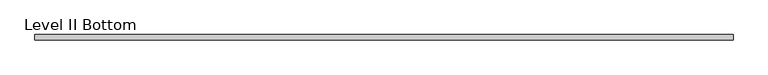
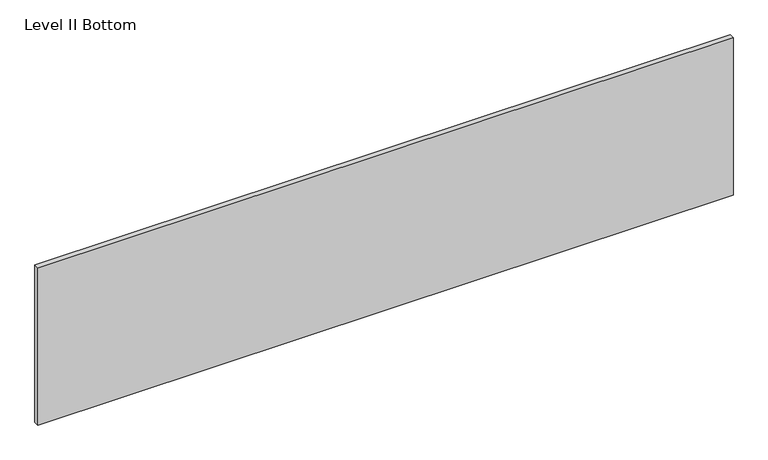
"""IFC4 building model written with IfcOpenShell, lengths in millimetres: proxy geometry, Panel-Fascia-Teknion-Altos-Landscape : Level II Bottom."""

import ifcopenshell
import ifcopenshell.guid

model = None  # the IFC model being written
_history = None  # IfcOwnerHistory: only IFC2X3 demands one
_inside = {}  # id of a spatial element -> (the spatial element, [elements in it])
_under = {}  # id of a project, library or spatial element -> (it, [spatial elements below it])
_declared = {}  # id of a project -> (the project, [libraries it declares])
_typed = {}  # id of a type object -> (the type object, [elements of that type])
_made_of = {}  # id of a material, layer set ... -> (it, [elements and type objects made of it])


def new_model(schema):
    """Start an empty IFC model of exactly this schema.

    Asked for "IFC4X3", IfcOpenShell would pick the latest addendum, in which some entities
    have other attributes; the version numbers below select the first issue.
    IFC2X3 requires an IfcOwnerHistory on every rooted entity: one is made here for all.
    """
    global model, _history
    if schema == "IFC4X3":
        model = ifcopenshell.file(schema_version=(4, 3, 0, 0))
    else:
        model = ifcopenshell.file(schema=schema)
    _inside.clear()
    _under.clear()
    _declared.clear()
    _typed.clear()
    _made_of.clear()
    _history = None
    if model.schema == "IFC2X3":
        org = make("IfcOrganization", Name="unknown")
        user = make(
            "IfcPersonAndOrganization",
            ThePerson=make("IfcPerson", FamilyName="unknown"),
            TheOrganization=org,
        )
        app = make(
            "IfcApplication",
            ApplicationDeveloper=org,
            Version="unknown",
            ApplicationFullName="unknown",
            ApplicationIdentifier="unknown",
        )
        _history = make(
            "IfcOwnerHistory",
            OwningUser=user,
            OwningApplication=app,
            ChangeAction="ADDED",
            CreationDate=0,
        )
    return model


def make(cls, **values):
    """One entity of the class cls with the attributes given. An attribute that is None is left unset."""
    return model.create_entity(
        cls, **{name: value for name, value in values.items() if value is not None}
    )


def rooted(cls, **values):
    """An entity with a GlobalId (a new one), such as an element, a storey or a relation."""
    return make(cls, GlobalId=ifcopenshell.guid.new(), OwnerHistory=_history, **values)


def si_unit(unit_type, name, prefix=None):
    """IfcSIUnit, for example si_unit("LENGTHUNIT", "METRE", prefix="MILLI")."""
    return make("IfcSIUnit", UnitType=unit_type, Prefix=prefix, Name=name)


def assignment(units):
    """IfcUnitAssignment: the units of a project."""
    return None if units is None else make("IfcUnitAssignment", Units=units)


def point(xyz):
    """IfcCartesianPoint."""
    return None if xyz is None else make("IfcCartesianPoint", Coordinates=xyz)


def direction(xyz):
    """IfcDirection."""
    return None if xyz is None else make("IfcDirection", DirectionRatios=xyz)


def frame(location, z_axis=None, x_axis=None):
    """IfcAxis2Placement3D, a coordinate frame: its origin and axes. An axis left out is left unset."""
    return make(
        "IfcAxis2Placement3D",
        Location=point(location),
        Axis=direction(z_axis),
        RefDirection=direction(x_axis),
    )


def origin():
    """The frame at (0, 0, 0) with its axes left unset."""
    return frame((0.0, 0.0, 0.0))


def place(relative_to, where):
    """IfcLocalPlacement: puts the frame where relative to a parent placement (None: the world)."""
    return make(
        "IfcLocalPlacement", PlacementRelTo=relative_to, RelativePlacement=where
    )


def context(
    kind, dimensions, precision=None, world=None, true_north=None, identifier=None
):
    """IfcGeometricRepresentationContext, for example the 3D "Model" context."""
    return make(
        "IfcGeometricRepresentationContext",
        ContextIdentifier=identifier,
        ContextType=kind,
        CoordinateSpaceDimension=dimensions,
        Precision=precision,
        WorldCoordinateSystem=world,
        TrueNorth=true_north,
    )


def project(units=None, contexts=None):
    """IfcProject with its units and contexts."""
    return rooted(
        "IfcProject",
        Name="project",
        RepresentationContexts=contexts,
        UnitsInContext=assignment(units),
    )


def spatial(cls, under=None, at=None, **own):
    """A site, building, storey or space (cls), placed at a placement, below another one or the project."""
    s = rooted(cls, ObjectPlacement=at, **own)
    if under is not None:
        _under.setdefault(under.id(), (under, []))[1].append(s)
    return s


def polyline(points):
    """IfcPolyline through the points."""
    return make("IfcPolyline", Points=[point(p) for p in points])


def outline(outer, holes=None, kind="AREA"):
    """IfcArbitraryClosedProfileDef: a profile drawn as a closed curve; with holes, ...WithVoids."""
    if holes is None:
        return make("IfcArbitraryClosedProfileDef", ProfileType=kind, OuterCurve=outer)
    return make(
        "IfcArbitraryProfileDefWithVoids",
        ProfileType=kind,
        OuterCurve=outer,
        InnerCurves=holes,
    )


def extrude(swept, where, along, depth):
    """IfcExtrudedAreaSolid: the profile swept, set in the frame where, extruded along a direction by depth."""
    return make(
        "IfcExtrudedAreaSolid",
        SweptArea=swept,
        Position=where,
        ExtrudedDirection=direction(along),
        Depth=depth,
    )


def shape(context_of_items, identifier, shape_type, items):
    """IfcShapeRepresentation: the items that make up one representation, for example the "Body"."""
    return make(
        "IfcShapeRepresentation",
        ContextOfItems=context_of_items,
        RepresentationIdentifier=identifier,
        RepresentationType=shape_type,
        Items=items,
    )


def source(mapping_origin, context_of_items, identifier, shape_type, items):
    """IfcRepresentationMap: a shape defined once, which mapped items show again and again."""
    return make(
        "IfcRepresentationMap",
        MappingOrigin=mapping_origin,
        MappedRepresentation=shape(context_of_items, identifier, shape_type, items),
    )


def transform(
    local_origin,
    x_axis=None,
    y_axis=None,
    z_axis=None,
    scale=None,
    scale2=None,
    scale3=None,
    uniform=True,
):
    """IfcCartesianTransformationOperator3D, or its non-uniform kind. x_axis, y_axis, z_axis: its Axis1, 2, 3."""
    if uniform:
        return make(
            "IfcCartesianTransformationOperator3D",
            Axis1=direction(x_axis),
            Axis2=direction(y_axis),
            LocalOrigin=point(local_origin),
            Scale=scale,
            Axis3=direction(z_axis),
        )
    return make(
        "IfcCartesianTransformationOperator3DnonUniform",
        Axis1=direction(x_axis),
        Axis2=direction(y_axis),
        LocalOrigin=point(local_origin),
        Scale=scale,
        Axis3=direction(z_axis),
        Scale2=scale2,
        Scale3=scale3,
    )


def mapped(mapping_source, mapping_target):
    """IfcMappedItem: shows the shape of a source again, moved by a transform."""
    return make(
        "IfcMappedItem", MappingSource=mapping_source, MappingTarget=mapping_target
    )


def made_of(thing, what):
    """Note that an element or type object is made of a material, layer set ...; save() writes the relation."""
    if what is not None:
        _made_of.setdefault(what.id(), (what, []))[1].append(thing)
    return thing


def element(
    cls,
    number,
    at=None,
    inside=None,
    cuts=None,
    type_object=None,
    material=None,
    context=None,
    identifier="Body",
    shape_type=None,
    held_by="IfcProductDefinitionShape",
    body=None,
    shapes=None,
    **own,
):
    """One element of the class cls, such as IfcWall. Its Tag is "e" and its number.

    at: its placement. inside: the storey or other place that contains it. cuts: it is an
    opening in that element (IfcRelVoidsElement). A single representation is given by context,
    identifier, shape_type and body (its items); several are given by shapes. held_by: the class
    of the entity that holds the representations. save() writes the other relations.
    """
    e = rooted(cls, Tag="e%d" % number, ObjectPlacement=at, **own)
    if body is not None:
        shapes = [shape(context, identifier, shape_type, body)]
    if shapes is not None:
        e.Representation = make(held_by, Representations=shapes)
    if inside is not None:
        _inside.setdefault(inside.id(), (inside, []))[1].append(e)
    if cuts is not None:
        rooted(
            "IfcRelVoidsElement", RelatingBuildingElement=cuts, RelatedOpeningElement=e
        )
    if type_object is not None:
        _typed.setdefault(type_object.id(), (type_object, []))[1].append(e)
    return made_of(e, material)


def aggregate(whole, parts):
    """IfcRelAggregates: a whole, such as a stair, and the parts it consists of."""
    return rooted("IfcRelAggregates", RelatingObject=whole, RelatedObjects=parts)


def save(model, path):
    """Write the relations noted so far, then the file.

    IfcRelAggregates (storeys below a building ...), IfcRelContainedInSpatialStructure (elements
    in a storey), IfcRelDefinesByType, IfcRelAssociatesMaterial and IfcRelDeclares: one each for
    every whole, place, type object, material and project.
    """
    for whole, parts in _under.values():
        aggregate(whole, parts)
    for where, things in _inside.values():
        rooted(
            "IfcRelContainedInSpatialStructure",
            RelatedElements=things,
            RelatingStructure=where,
        )
    for kind, things in _typed.values():
        rooted("IfcRelDefinesByType", RelatedObjects=things, RelatingType=kind)
    for what, things in _made_of.values():
        rooted("IfcRelAssociatesMaterial", RelatedObjects=things, RelatingMaterial=what)
    for by, libraries in _declared.values():
        rooted("IfcRelDeclares", RelatingContext=by, RelatedDefinitions=libraries)
    model.write(path)


def level_ii_bottom_ba8b9d30(model_context):
    return source(origin(), model_context, "Body", "SweptSolid", [
        extrude(outline(polyline([(1259.8356344, -9.525), (-1259.8356344, -9.525), (-1259.8356344, 9.525), (1259.8356344, 9.525), (1259.8356344, -9.525)])), frame((0.0, 0.0, 3.175), z_axis=(0.0, 0.0, 1.0), x_axis=(1.0, 0.0, 0.0)), (0.0, 0.0, 1.0), 603.25),
    ])


if __name__ == "__main__":
    model = new_model("IFC4")
    model_context = context("Model", 3, world=origin())
    ifc_project = project(units=[si_unit("LENGTHUNIT", "METRE", prefix="MILLI")], contexts=[model_context])
    site = spatial("IfcSite", under=ifc_project)
    building = spatial("IfcBuilding", under=site)
    placement = place(None, origin())
    level_ii_bottom_shape = level_ii_bottom_ba8b9d30(model_context)
    element("IfcBuildingElementProxy", 1, Name="Panel-Fascia-Teknion-Altos-Landscape : Level II Bottom", ObjectType="Panel-Fascia-Teknion-Altos-Landscape : Level II Bottom", at=placement, inside=building, context=model_context, shape_type="MappedRepresentation", body=[
        mapped(level_ii_bottom_shape, transform((0.0, 0.0, 0.0), x_axis=(1.0, 0.0, 0.0), y_axis=(0.0, 1.0, 0.0), z_axis=(0.0, 0.0, 1.0))),
    ])
    save(model, "model.ifc")
